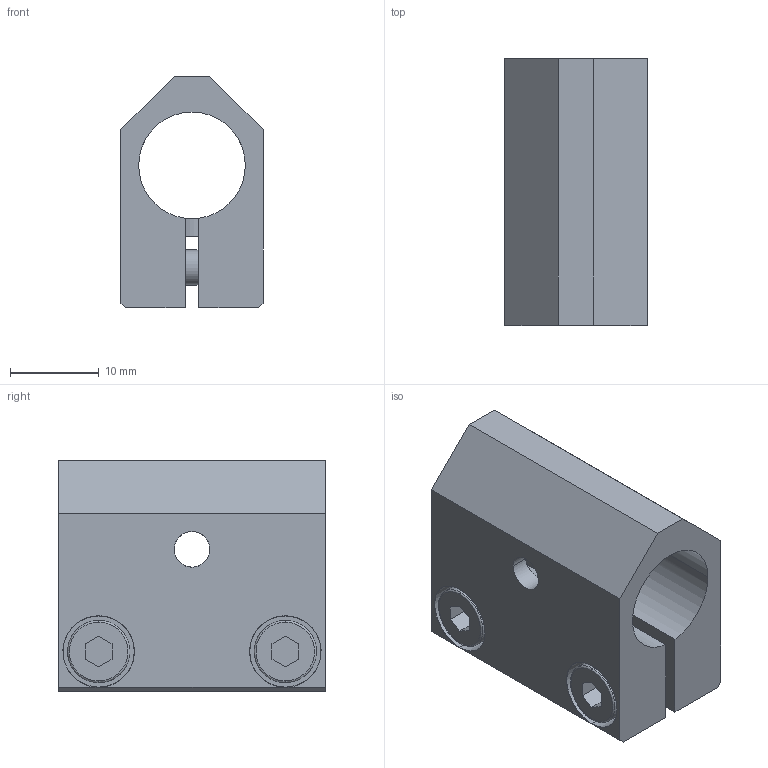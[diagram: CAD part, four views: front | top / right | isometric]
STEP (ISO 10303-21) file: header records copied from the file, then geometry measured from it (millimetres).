
FILE_DESCRIPTION (( 'STEP AP214' ), '1' );
FILE_NAME ('SMBF-1208T.STEP', '2022-12-28T09:11:17', ( 'Windows User' ), ( 'P R C' ), 'SwSTEP 2.0', 'SolidWorks 2018', '' );
FILE_SCHEMA (( 'AUTOMOTIVE_DESIGN' ));
Length unit declared in the file: millimetre
Products named in the file (1): SMBF-1208T
Bounding box: 16 x 30 x 26 mm (x, y, z)
Volume: 6929.9 mm3; surface area: 5597.3 mm2
Topology: 5 solids, 5 shells, 473 faces, 1367 edges, 900 vertices
Faces by surface type: plane 422, cylinder 39, cone 8, bspline 4
Entity records: 21250 total; most frequent: CARTESIAN_POINT 3125, DIRECTION 2737, ORIENTED_EDGE 2734, EDGE_CURVE 1367, AXIS2_PLACEMENT_3D 920, VERTEX_POINT 900, VECTOR 897, LINE 897
